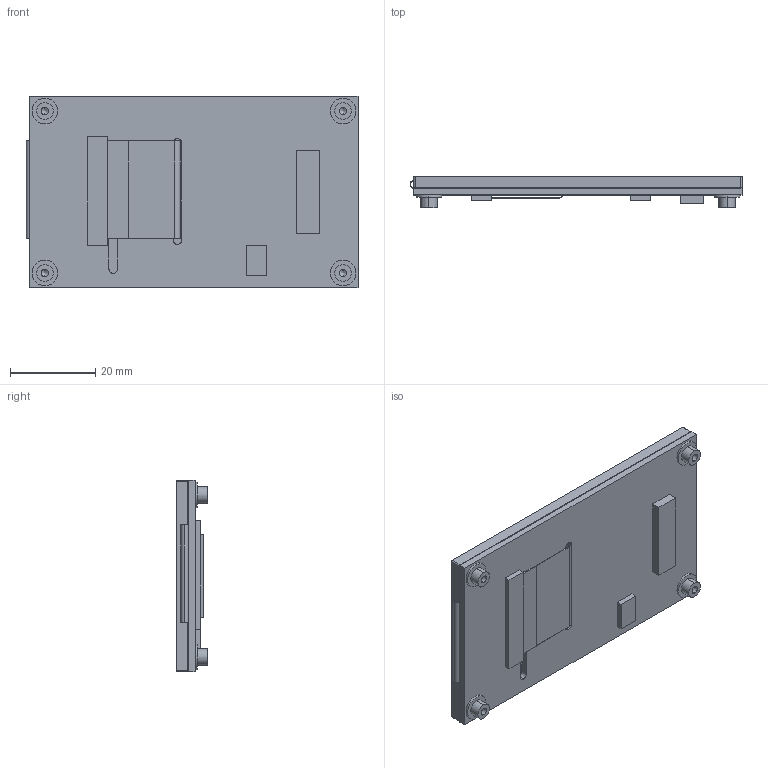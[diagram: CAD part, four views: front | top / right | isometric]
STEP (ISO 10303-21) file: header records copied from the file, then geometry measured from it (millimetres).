
FILE_DESCRIPTION (( 'STEP AP214' ), '1' );
FILE_NAME ('TFT_BOARD_ASSEMBLY.STEP', '2020-05-05T18:33:14', ( '' ), ( '' ), 'SwSTEP 2.0', 'SolidWorks 2015', '' );
FILE_SCHEMA (( 'AUTOMOTIVE_DESIGN' ));
Length unit declared in the file: millimetre
Products named in the file (4): CFA10097; TFT Tail; TFT_BOARD_ASSEMBLY; CFAF240400E0-030TN
Assembly tree (3 placements, depth 2):
  TFT_BOARD_ASSEMBLY
    CFA10097
    CFAF240400E0-030TN
    TFT Tail
Bounding box: 77.92 x 7.26 x 45.04 mm (x, y, z)
Volume: 15054.4 mm3; surface area: 18352 mm2
Topology: 3 solids, 3 shells, 126 faces, 304 edges, 192 vertices
Faces by surface type: plane 66, cylinder 50, cone 8, bspline 2
Entity records: 4928 total; most frequent: CARTESIAN_POINT 652, DIRECTION 648, ORIENTED_EDGE 592, EDGE_CURVE 296, AXIS2_PLACEMENT_3D 230, VERTEX_POINT 192, LINE 188, VECTOR 188
